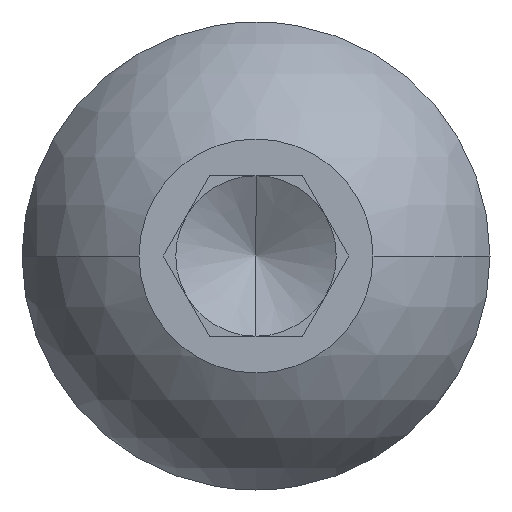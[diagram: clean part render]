
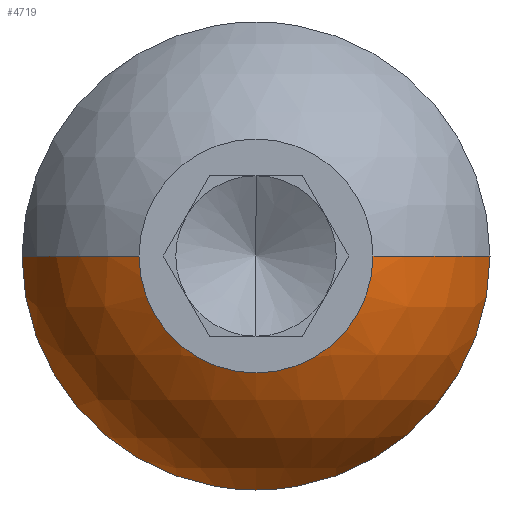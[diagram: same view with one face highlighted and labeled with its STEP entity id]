
A CAD part, left-side view. The second image highlights one B-rep face of the part: STEP entity #4719.
In plain terms, the highlighted spherical face has radius 9.265 mm.
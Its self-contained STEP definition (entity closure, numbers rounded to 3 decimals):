
#100 = EDGE_CURVE ( 'NONE', #884, #699, #3480, .T. ) ;
#128 = ORIENTED_EDGE ( 'NONE', *, *, #100, .T. ) ;
#192 = AXIS2_PLACEMENT_3D ( 'NONE', #2404, #7650, #6428 ) ;
#560 = VERTEX_POINT ( 'NONE', #3648 ) ;
#586 = DIRECTION ( 'NONE',  ( 0., 0., 1. ) ) ;
#699 = VERTEX_POINT ( 'NONE', #1195 ) ;
#737 = CARTESIAN_POINT ( 'NONE',  ( 5.12, 0., 0. ) ) ;
#739 = DIRECTION ( 'NONE',  ( 0., 0., -1. ) ) ;
#820 = DIRECTION ( 'NONE',  ( 0., 1., 0. ) ) ;
#884 = VERTEX_POINT ( 'NONE', #2666 ) ;
#932 = EDGE_CURVE ( 'NONE', #5931, #560, #7473, .T. ) ;
#1114 = DIRECTION ( 'NONE',  ( 0., 0., 1. ) ) ;
#1195 = CARTESIAN_POINT ( 'NONE',  ( 5.12, 0., -8.75 ) ) ;
#1715 = DIRECTION ( 'NONE',  ( -1., 0., 0. ) ) ;
#2029 = FACE_OUTER_BOUND ( 'NONE', #2918, .T. ) ;
#2070 = SPHERICAL_SURFACE ( 'NONE', #3483, 9.266 ) ;
#2404 = CARTESIAN_POINT ( 'NONE',  ( 8.168, 0., 0. ) ) ;
#2666 = CARTESIAN_POINT ( 'NONE',  ( 5.12, 8.75, 0. ) ) ;
#2918 = EDGE_LOOP ( 'NONE', ( #128, #3164, #3643, #6033, #3693 ) ) ;
#3130 = CARTESIAN_POINT ( 'NONE',  ( 8.168, 0., 0. ) ) ;
#3164 = ORIENTED_EDGE ( 'NONE', *, *, #5545, .T. ) ;
#3315 = CARTESIAN_POINT ( 'NONE',  ( 0., 4.375, 0. ) ) ;
#3480 = CIRCLE ( 'NONE', #4618, 8.75 ) ;
#3483 = AXIS2_PLACEMENT_3D ( 'NONE', #5663, #739, #820 ) ;
#3595 = CIRCLE ( 'NONE', #6122, 4.375 ) ;
#3601 = CIRCLE ( 'NONE', #192, 9.266 ) ;
#3643 = ORIENTED_EDGE ( 'NONE', *, *, #932, .T. ) ;
#3648 = CARTESIAN_POINT ( 'NONE',  ( 0., -4.375, 0. ) ) ;
#3693 = ORIENTED_EDGE ( 'NONE', *, *, #7302, .F. ) ;
#4316 = AXIS2_PLACEMENT_3D ( 'NONE', #3130, #5707, #6216 ) ;
#4343 = CIRCLE ( 'NONE', #6486, 8.75 ) ;
#4618 = AXIS2_PLACEMENT_3D ( 'NONE', #737, #6120, #6737 ) ;
#4719 = ADVANCED_FACE ( 'NONE', ( #2029 ), #2070, .T. ) ;
#5437 = CARTESIAN_POINT ( 'NONE',  ( 5.12, -8.75, 0. ) ) ;
#5542 = DIRECTION ( 'NONE',  ( -1., 0., 0. ) ) ;
#5545 = EDGE_CURVE ( 'NONE', #699, #5931, #4343, .T. ) ;
#5663 = CARTESIAN_POINT ( 'NONE',  ( 8.168, 0., 0. ) ) ;
#5707 = DIRECTION ( 'NONE',  ( 0., 0., -1. ) ) ;
#5931 = VERTEX_POINT ( 'NONE', #5437 ) ;
#6033 = ORIENTED_EDGE ( 'NONE', *, *, #6300, .F. ) ;
#6046 = CARTESIAN_POINT ( 'NONE',  ( 0., 0., 0. ) ) ;
#6120 = DIRECTION ( 'NONE',  ( -1., 0., 0. ) ) ;
#6122 = AXIS2_PLACEMENT_3D ( 'NONE', #6046, #5542, #586 ) ;
#6216 = DIRECTION ( 'NONE',  ( 0., 1., 0. ) ) ;
#6300 = EDGE_CURVE ( 'NONE', #7143, #560, #3595, .T. ) ;
#6428 = DIRECTION ( 'NONE',  ( 1., 0., 0. ) ) ;
#6486 = AXIS2_PLACEMENT_3D ( 'NONE', #7159, #1715, #1114 ) ;
#6737 = DIRECTION ( 'NONE',  ( 0., 0., 1. ) ) ;
#7143 = VERTEX_POINT ( 'NONE', #3315 ) ;
#7159 = CARTESIAN_POINT ( 'NONE',  ( 5.12, 0., 0. ) ) ;
#7302 = EDGE_CURVE ( 'NONE', #884, #7143, #3601, .T. ) ;
#7473 = CIRCLE ( 'NONE', #4316, 9.266 ) ;
#7650 = DIRECTION ( 'NONE',  ( 0., 0., 1. ) ) ;
